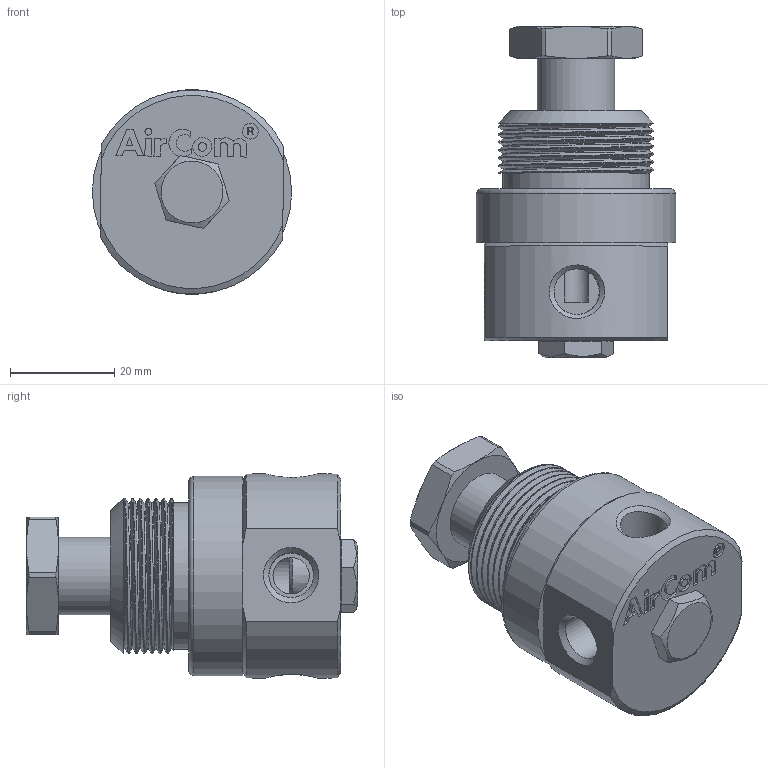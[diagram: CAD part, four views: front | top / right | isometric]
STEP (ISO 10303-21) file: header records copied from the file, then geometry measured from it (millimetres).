
FILE_DESCRIPTION(/* description */ (''),/* implementation_level */ '2;1');
FILE_NAME(/* name */ 'U:/AirCom-Produktdokumentation/Druckregler/R364/Zeichnungen/CAD-Aircom/3D/B-R364-010X82.step',/* time_stamp */ '2018-09-11T14:34:07+02:00',/* author */ ('fschroers'),/* organization */ (''),/* preprocessor_version */ 'ST-DEVELOPER v17.2',/* originating_system */ 'Autodesk Translation Framework v7.6.0.251',/* authorisation */ '');
FILE_SCHEMA (('AUTOMOTIVE_DESIGN { 1 0 10303 214 3 1 1 }'));
Length unit declared in the file: millimetre
Products named in the file (5): Unbenannt v1(2); B-R364-01-J-Verschluss; B-R364-01-J-Gehaeuse-1-8; Unbenannt; Unbenannt_1
Assembly tree (4 placements, depth 2):
  Unbenannt v1(2)
    B-R364-01-J-Verschluss
    B-R364-01-J-Gehaeuse-1-8
    Unbenannt
    Unbenannt_1
Bounding box: 38.24 x 63.57 x 39.24 mm (x, y, z)
Volume: 36822 mm3; surface area: 19114.6 mm2
Topology: 4 solids, 4 shells, 220 faces, 586 edges, 392 vertices
Faces by surface type: plane 98, cylinder 74, cone 36, bspline 8, torus 4
Full cylindrical faces by diameter (mm): 1.315 x1, 3 x1, 3.06 x1, 5 x4, 6.2 x1, 7 x1, 8.59 x2, 8.738 x1, 8.75 x2, 11.176 x1, 13.18 x1, 14.95 x1, 14.96 x1, 24.45 x1, 25.4 x1, 28.05 x1, 28.132 x6, 28.526 x6, 28.956 x1, 29.85 x6, 30.208 x7, 31.585 x1, 38.24 x1
Entity records: 12374 total; most frequent: CARTESIAN_POINT 6840, ORIENTED_EDGE 1164, DIRECTION 1080, EDGE_CURVE 582, AXIS2_PLACEMENT_3D 404, VERTEX_POINT 390, LINE 272, VECTOR 272
